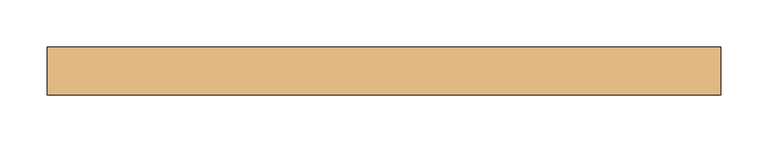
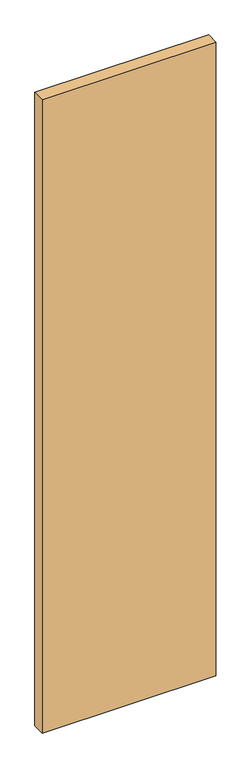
"""IFC4 building model written with IfcOpenShell, lengths in millimetres: door geometry, Planitar - Swap_Flush Panel : Planitar - Swap_Flush Panel."""

from ifc_helpers import new_model, si_unit, origin, origin_with_axes, place, context, project, spatial, polyline, outline, extrude, source, transform, mapped, element, save


def door_679f055a(model_context):
    return source(origin(), model_context, "Body", "SweptSolid", [
        extrude(outline(polyline([(355.6, -25.4), (-355.6, -25.4), (-355.6, 25.4), (355.6, 25.4), (355.6, -25.4)])), origin_with_axes(), (0.0, 0.0, 1.0), 2743.2),
    ])


if __name__ == "__main__":
    model = new_model("IFC4")
    model_context = context("Model", 3, world=origin())
    ifc_project = project(units=[si_unit("LENGTHUNIT", "METRE", prefix="MILLI")], contexts=[model_context])
    site = spatial("IfcSite", under=ifc_project)
    building = spatial("IfcBuilding", under=site)
    placement = place(None, origin())
    door_shape = door_679f055a(model_context)
    element("IfcDoor", 1, ObjectType="Planitar - Swap_Flush Panel : Planitar - Swap_Flush Panel", at=placement, inside=building, context=model_context, shape_type="MappedRepresentation", body=[
        mapped(door_shape, transform((0.0, 0.0, 0.0), x_axis=(1.0, 0.0, 0.0), y_axis=(0.0, 1.0, 0.0), z_axis=(0.0, 0.0, 1.0))),
    ])
    save(model, "model.ifc")
